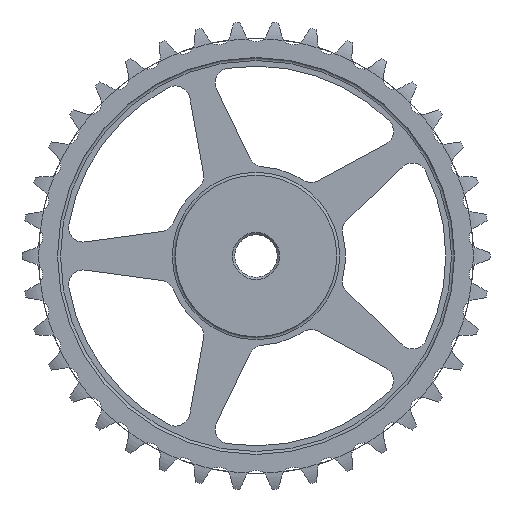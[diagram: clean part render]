
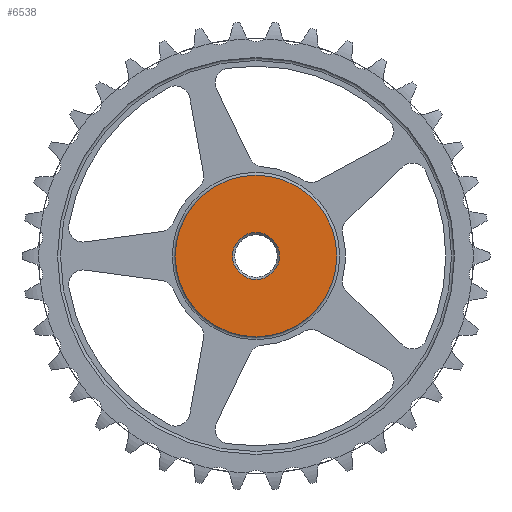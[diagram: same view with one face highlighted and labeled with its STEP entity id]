
A CAD part, left-side view. The second image highlights one B-rep face of the part: STEP entity #6538.
In plain terms, the highlighted planar face has unit normal (-1, 0, 0).
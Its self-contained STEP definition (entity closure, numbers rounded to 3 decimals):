
#42=FACE_BOUND('',#1300,.T.);
#585=CIRCLE('',#7333,55.);
#586=CIRCLE('',#7335,16.);
#662=PLANE('',#7334);
#970=FACE_OUTER_BOUND('',#1299,.T.);
#1299=EDGE_LOOP('',(#5794));
#1300=EDGE_LOOP('',(#5795));
#2827=VERTEX_POINT('',#12857);
#2828=VERTEX_POINT('',#12860);
#3893=EDGE_CURVE('',#2827,#2827,#585,.T.);
#3894=EDGE_CURVE('',#2828,#2828,#586,.T.);
#5794=ORIENTED_EDGE('',*,*,#3893,.T.);
#5795=ORIENTED_EDGE('',*,*,#3894,.F.);
#6538=ADVANCED_FACE('',(#970,#42),#662,.T.);
#7333=AXIS2_PLACEMENT_3D('',#12858,#9160,#9161);
#7334=AXIS2_PLACEMENT_3D('',#12859,#9162,#9163);
#7335=AXIS2_PLACEMENT_3D('',#12861,#9164,#9165);
#9160=DIRECTION('center_axis',(-1.,0.,0.));
#9161=DIRECTION('ref_axis',(0.,0.,1.));
#9162=DIRECTION('center_axis',(-1.,0.,0.));
#9163=DIRECTION('ref_axis',(0.,0.,1.));
#9164=DIRECTION('center_axis',(-1.,0.,0.));
#9165=DIRECTION('ref_axis',(0.,0.,1.));
#12857=CARTESIAN_POINT('',(-0.935,102.123,0.));
#12858=CARTESIAN_POINT('Origin',(-0.935,157.123,0.));
#12859=CARTESIAN_POINT('Origin',(-0.935,141.123,0.));
#12860=CARTESIAN_POINT('',(-0.935,141.123,0.));
#12861=CARTESIAN_POINT('Origin',(-0.935,157.123,0.));
